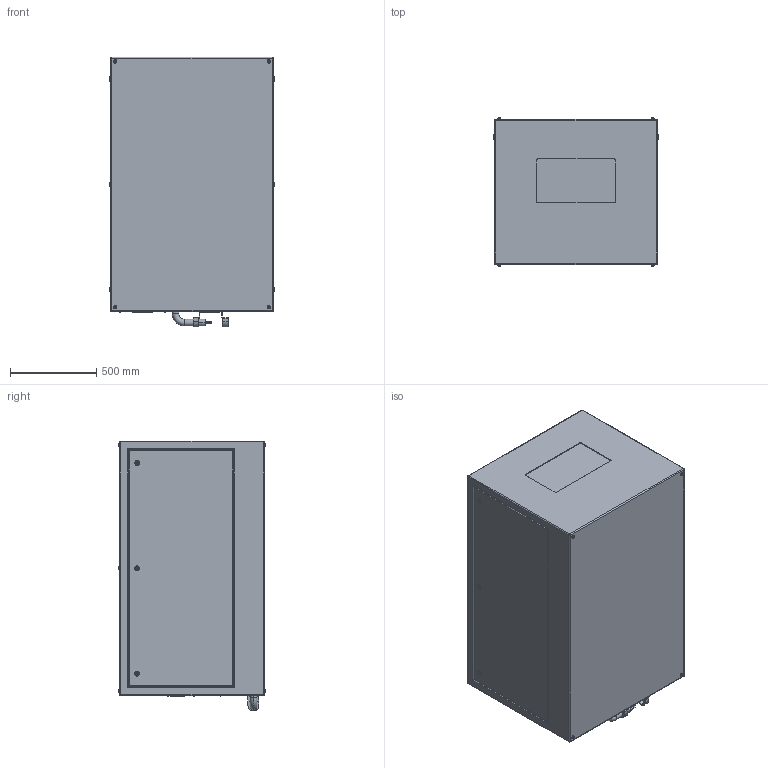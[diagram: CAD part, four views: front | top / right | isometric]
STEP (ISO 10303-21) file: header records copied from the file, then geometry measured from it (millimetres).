
FILE_DESCRIPTION (( 'STEP AP214' ), '1' );
FILE_NAME ('Oasis 59.314.L R02.STEP', '2022-08-27T16:10:02', ( '' ), ( '' ), 'SwSTEP 2.0', 'SolidWorks 2020', '' );
FILE_SCHEMA (( 'AUTOMOTIVE_DESIGN' ));
Length unit declared in the file: inch
Products named in the file (1): Oasis 59.314.L R02
Bounding box: 952.5 x 855.47 x 1562.1 mm (x, y, z)
Volume: 1159526281.8 mm3; surface area: 7295968.6 mm2
Topology: 2 solids, 8 shells, 495 faces, 1129 edges, 714 vertices
Faces by surface type: plane 271, cylinder 170, torus 46, bspline 8
Entity records: 18928 total; most frequent: CARTESIAN_POINT 2851, DIRECTION 2459, ORIENTED_EDGE 2242, EDGE_CURVE 1121, AXIS2_PLACEMENT_3D 882, VERTEX_POINT 714, VECTOR 695, LINE 695
